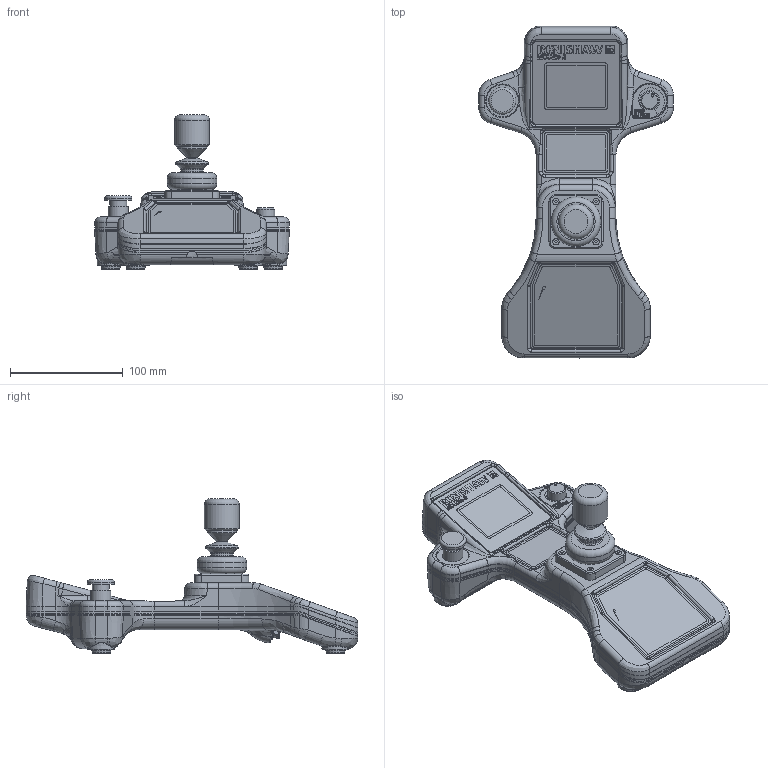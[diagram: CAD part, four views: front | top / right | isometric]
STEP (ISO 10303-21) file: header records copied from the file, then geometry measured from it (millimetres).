
FILE_DESCRIPTION(/* description */ (''),/* implementation_level */ '2;1');
FILE_NAME(/* name */ 'MCULite-2 Assembly.stp',/* time_stamp */ '2022-10-12T07:57:39+01:00',/* author */ (''),/* organization */ (''),/* preprocessor_version */ 'ST-DEVELOPER v16.7',/* originating_system */ 'SIEMENS PLM Software NX 1946',/* authorisation */ '');
FILE_SCHEMA (('AUTOMOTIVE_DESIGN { 1 0 10303 214 3 1 1 1 }'));
Length unit declared in the file: millimetre
Products named in the file (1): MCULite-2 Assembly_x_t
Bounding box: 173 x 295 x 137.3 mm (x, y, z)
Volume: 1182217.9 mm3; surface area: 110935.7 mm2
Topology: 1 solids, 1 shells, 1032 faces, 2742 edges, 1820 vertices
Faces by surface type: plane 324, cylinder 265, bspline 242, torus 118, cone 80, extrusion 2, sphere 1
Full cylindrical faces by diameter (mm): 1 x9, 2.35 x2, 8.7 x1, 9 x1, 15 x1, 16 x1, 18 x1, 19 x4, 20 x1, 24 x1, 26 x1, 28.5 x1, 29 x1, 31 x1, 34 x1, 44 x1
Entity records: 36974 total; most frequent: CARTESIAN_POINT 12153, ORIENTED_EDGE 5224, DIRECTION 4447, EDGE_CURVE 2612, VERTEX_POINT 1789, AXIS2_PLACEMENT_3D 1693, EDGE_LOOP 1237, VECTOR 1061
